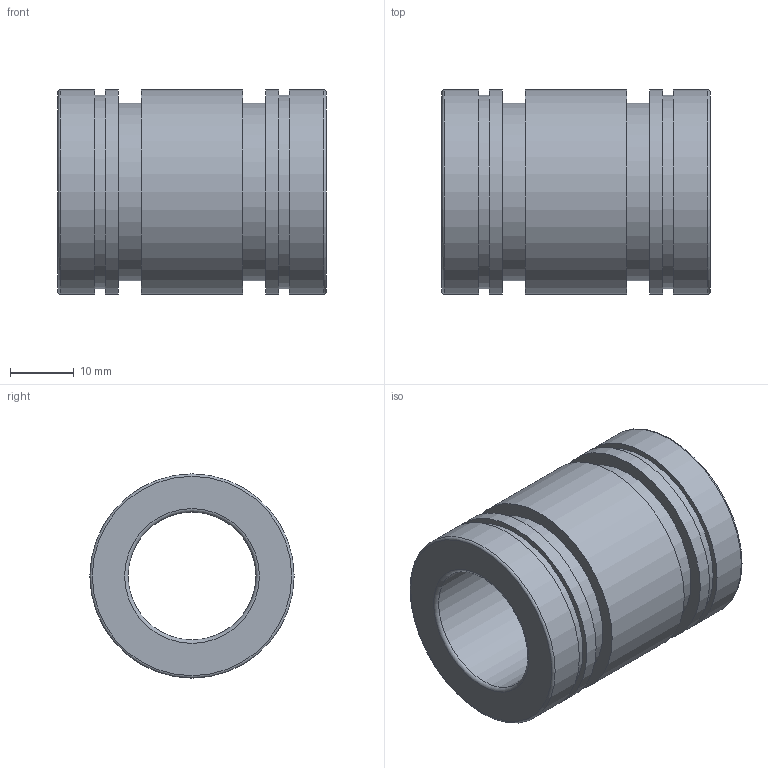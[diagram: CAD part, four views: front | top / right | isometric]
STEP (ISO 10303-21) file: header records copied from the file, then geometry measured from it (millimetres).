
FILE_DESCRIPTION(('STEP AP203'),'1');
FILE_NAME('//192.168.1.1/share/s-4 技術開発/s-4-4_CAD/s-4-4-3_見直し済み/PBC LINEAR修正済み/3D途中/FJ/FJ20.step','2022-03-24T06:57:47',(' '),(' '),'Spatial InterOp 3D',' ',' ');
FILE_SCHEMA(('CONFIG_CONTROL_DESIGN'));
Length unit declared in the file: millimetre
Products named in the file (1): 1
Bounding box: 42 x 32 x 32 mm (x, y, z)
Volume: 18911.5 mm3; surface area: 8779.1 mm2
Topology: 1 solids, 1 shells, 24 faces, 38 edges, 24 vertices
Faces by surface type: cylinder 10, plane 10, torus 4
Full cylindrical faces by diameter (mm): 20 x1, 27.864 x2, 30.3 x2, 32 x5
Entity records: 532 total; most frequent: DIRECTION 98, CARTESIAN_POINT 73, AXIS2_PLACEMENT_3D 49, EDGE_LOOP 48, ORIENTED_EDGE 48, FACE_OUTER_BOUND 38, ADVANCED_FACE 24, EDGE_CURVE 24
